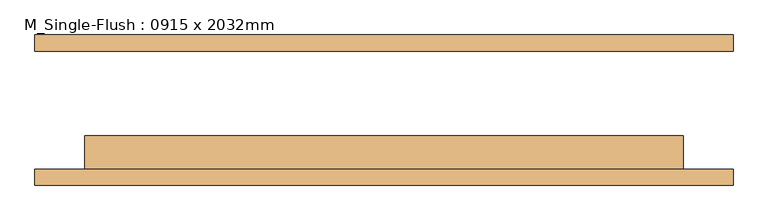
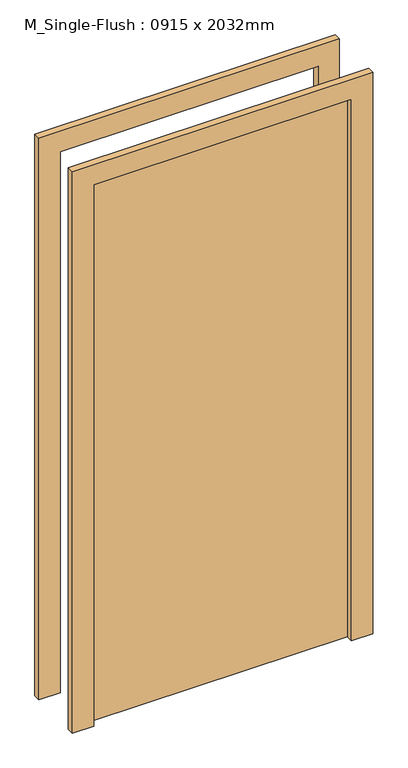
"""IFC4 building model written with IfcOpenShell, lengths in millimetres: door geometry, M_Single-Flush : 0915 x 2032mm."""

from ifc_helpers import new_model, si_unit, frame, origin, origin_with_axes, place, context, project, spatial, polyline, outline, extrude, source, transform, mapped, element, save


def m_single_flush_0915_x_2032mm_88b5ae01(model_context):
    return source(origin(), model_context, "Body", "SweptSolid", [
        extrude(outline(polyline([(2108.0, -533.5), (0.0, -533.5), (0.0, -457.5), (2032.0, -457.5), (2032.0, 457.5), (0.0, 457.5), (0.0, 533.5), (2108.0, 533.5), (2108.0, -533.5)])), frame((0.0, -115.0, 0.0), z_axis=(0.0, 1.0, 0.0), x_axis=(0.0, 0.0, 1.0)), (0.0, 0.0, 1.0), 25.0),
        extrude(outline(polyline([(2108.0, 533.5), (2108.0, -533.5), (0.0, -533.5), (0.0, -457.5), (2032.0, -457.5), (2032.0, 457.5), (0.0, 457.5), (0.0, 533.5), (2108.0, 533.5)])), frame((0.0, 90.0, 0.0), z_axis=(0.0, 1.0, 0.0), x_axis=(0.0, 0.0, 1.0)), (0.0, 0.0, 1.0), 25.0),
        extrude(outline(polyline([(457.5, -39.0), (457.5, -90.0), (-457.5, -90.0), (-457.5, -39.0), (457.5, -39.0)])), origin_with_axes(), (0.0, 0.0, 1.0), 2032.0),
    ])


if __name__ == "__main__":
    model = new_model("IFC4")
    model_context = context("Model", 3, world=origin())
    ifc_project = project(units=[si_unit("LENGTHUNIT", "METRE", prefix="MILLI")], contexts=[model_context])
    site = spatial("IfcSite", under=ifc_project)
    building = spatial("IfcBuilding", under=site)
    placement = place(None, origin())
    m_single_flush_0915_x_2032mm_shape = m_single_flush_0915_x_2032mm_88b5ae01(model_context)
    element("IfcDoor", 1, ObjectType="M_Single-Flush : 0915 x 2032mm", at=placement, inside=building, context=model_context, shape_type="MappedRepresentation", body=[
        mapped(m_single_flush_0915_x_2032mm_shape, transform((0.0, 0.0, 0.0), x_axis=(1.0, 0.0, 0.0), y_axis=(0.0, 1.0, 0.0), z_axis=(0.0, 0.0, 1.0))),
    ])
    save(model, "model.ifc")
